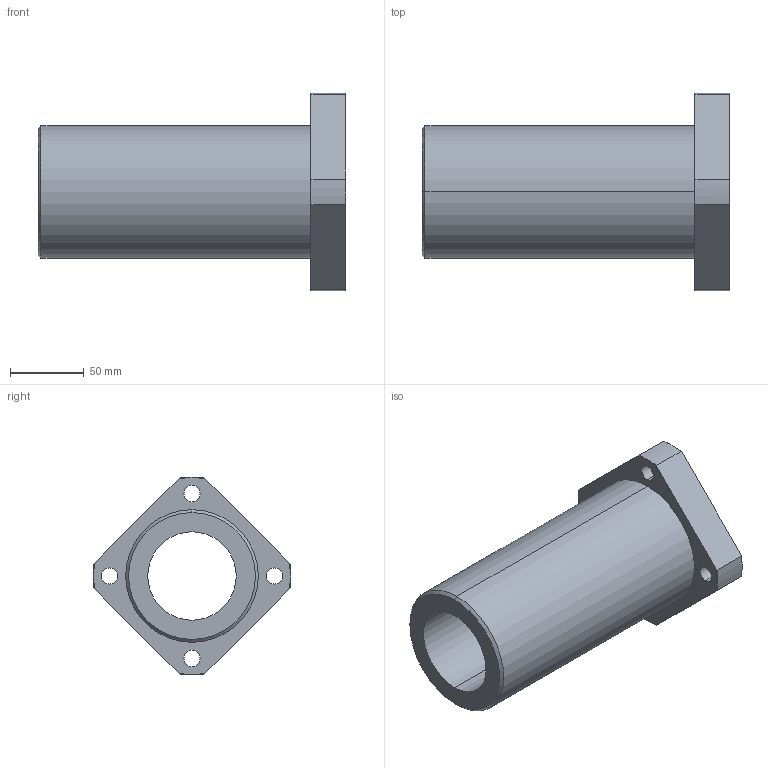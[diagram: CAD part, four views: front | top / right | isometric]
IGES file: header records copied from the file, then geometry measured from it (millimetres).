
Start section: 3D InterOp IGES (Version 21 0 1), Spatial Corp. Copyright (c) 1999-2007.
Global section: file name: DFPJ60.igs; native system: Spatial Corp.; preprocessor: 3D InterOp GENERIC/IGES 3.0; author: Noname; organization: Noname; date: 20220324.140725; units: millimetre
Bounding box: 209 x 133.88 x 134 mm (x, y, z)
Surface area: 120533.8 mm2 (no closed solid volume)
Topology: 0 solids, 0 shells, 48 faces, 240 edges, 240 vertices
Faces by surface type: revolution 37, extrusion 11
